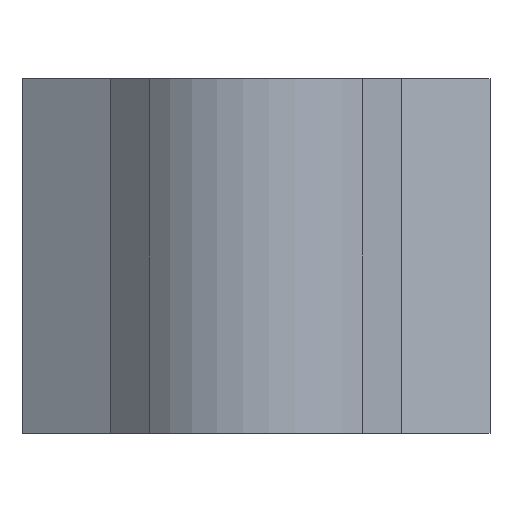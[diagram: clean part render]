
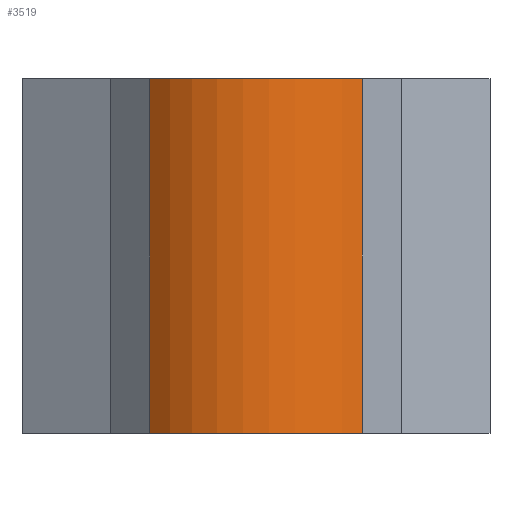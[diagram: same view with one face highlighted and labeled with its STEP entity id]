
A CAD part, front view. The second image highlights one B-rep face of the part: STEP entity #3519.
In plain terms, the highlighted cylindrical face has radius 9 mm (diameter 18 mm), a partial arc.
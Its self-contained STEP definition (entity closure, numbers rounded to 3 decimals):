
#949 = DIRECTION ( 'NONE',  ( -1., 0., 0. ) ) ;
#950 = DIRECTION ( 'NONE',  ( 0., 0., -1. ) ) ;
#951 = CARTESIAN_POINT ( 'NONE',  ( 3.75, 3.821, 21.2 ) ) ;
#952 = AXIS2_PLACEMENT_3D ( 'NONE', #951, #950, #949 ) ;
#953 = CYLINDRICAL_SURFACE ( 'NONE', #952, 9. ) ;
#955 = FACE_OUTER_BOUND ( 'NONE', #3515, .T. ) ;
#956 = DIRECTION ( 'NONE',  ( 0., 0., -1. ) ) ;
#957 = VECTOR ( 'NONE', #956, 1000. ) ;
#958 = CARTESIAN_POINT ( 'NONE',  ( 10.114, -2.543, 21.2 ) ) ;
#959 = LINE ( 'NONE', #958, #957 ) ;
#960 = DIRECTION ( 'NONE',  ( 0., 0., -1. ) ) ;
#961 = VECTOR ( 'NONE', #960, 1000. ) ;
#962 = CARTESIAN_POINT ( 'NONE',  ( -2.614, -2.543, 21.2 ) ) ;
#963 = LINE ( 'NONE', #962, #961 ) ;
#1828 = VERTEX_POINT ( 'NONE', #3886 ) ;
#1852 = EDGE_CURVE ( 'NONE', #1828, #1853, #3919, .T. ) ;
#1853 = VERTEX_POINT ( 'NONE', #3914 ) ;
#1863 = VERTEX_POINT ( 'NONE', #3904 ) ;
#1864 = VERTEX_POINT ( 'NONE', #3903 ) ;
#1868 = EDGE_CURVE ( 'NONE', #1864, #1863, #3902, .T. ) ;
#3512 = EDGE_CURVE ( 'NONE', #1828, #1864, #963, .T. ) ;
#3513 = ORIENTED_EDGE ( 'NONE', *, *, #3512, .T. ) ;
#3514 = ORIENTED_EDGE ( 'NONE', *, *, #3518, .F. ) ;
#3515 = EDGE_LOOP ( 'NONE', ( #3517, #3514, #3516, #3513 ) ) ;
#3516 = ORIENTED_EDGE ( 'NONE', *, *, #1852, .F. ) ;
#3517 = ORIENTED_EDGE ( 'NONE', *, *, #1868, .T. ) ;
#3518 = EDGE_CURVE ( 'NONE', #1853, #1863, #959, .T. ) ;
#3519 = ADVANCED_FACE ( 'NONE', ( #955 ), #953, .T. ) ;
#3886 = CARTESIAN_POINT ( 'NONE',  ( -2.614, -2.543, 21.2 ) ) ;
#3901 = AXIS2_PLACEMENT_3D ( 'NONE', #3964, #3963, #3962 ) ;
#3902 = CIRCLE ( 'NONE', #3901, 9. ) ;
#3903 = CARTESIAN_POINT ( 'NONE',  ( -2.614, -2.543, 0. ) ) ;
#3904 = CARTESIAN_POINT ( 'NONE',  ( 10.114, -2.543, 0. ) ) ;
#3914 = CARTESIAN_POINT ( 'NONE',  ( 10.114, -2.543, 21.2 ) ) ;
#3915 = DIRECTION ( 'NONE',  ( 1., 0., 0. ) ) ;
#3916 = DIRECTION ( 'NONE',  ( 0., 0., 1. ) ) ;
#3917 = CARTESIAN_POINT ( 'NONE',  ( 3.75, 3.821, 21.2 ) ) ;
#3918 = AXIS2_PLACEMENT_3D ( 'NONE', #3917, #3916, #3915 ) ;
#3919 = CIRCLE ( 'NONE', #3918, 9. ) ;
#3962 = DIRECTION ( 'NONE',  ( 1., 0., 0. ) ) ;
#3963 = DIRECTION ( 'NONE',  ( 0., 0., 1. ) ) ;
#3964 = CARTESIAN_POINT ( 'NONE',  ( 3.75, 3.821, 0. ) ) ;
